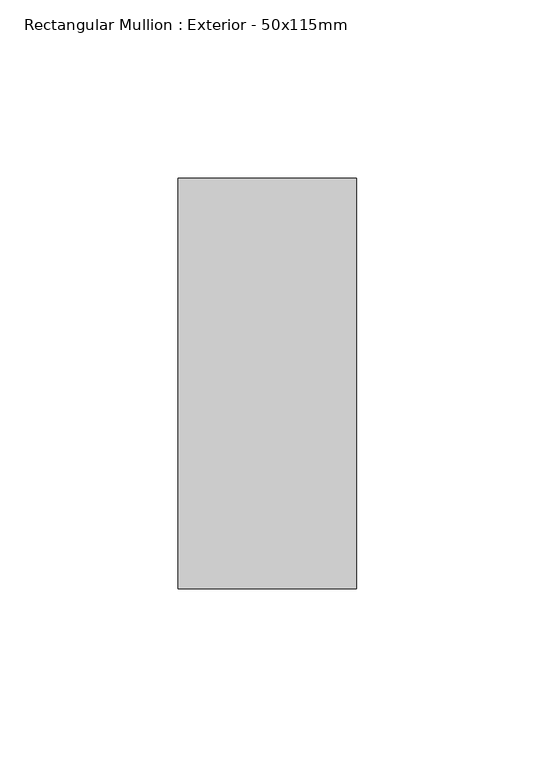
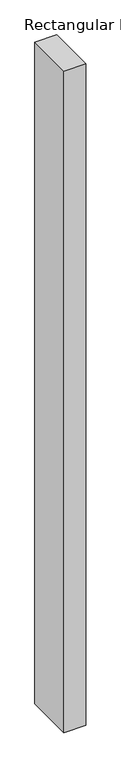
"""IFC4 building model written with IfcOpenShell, lengths in millimetres: member geometry, Rectangular Mullion : Exterior - 50x115mm."""

import ifcopenshell
import ifcopenshell.guid

model = None  # the IFC model being written
_history = None  # IfcOwnerHistory: only IFC2X3 demands one
_inside = {}  # id of a spatial element -> (the spatial element, [elements in it])
_under = {}  # id of a project, library or spatial element -> (it, [spatial elements below it])
_declared = {}  # id of a project -> (the project, [libraries it declares])
_typed = {}  # id of a type object -> (the type object, [elements of that type])
_made_of = {}  # id of a material, layer set ... -> (it, [elements and type objects made of it])


def new_model(schema):
    """Start an empty IFC model of exactly this schema.

    Asked for "IFC4X3", IfcOpenShell would pick the latest addendum, in which some entities
    have other attributes; the version numbers below select the first issue.
    IFC2X3 requires an IfcOwnerHistory on every rooted entity: one is made here for all.
    """
    global model, _history
    if schema == "IFC4X3":
        model = ifcopenshell.file(schema_version=(4, 3, 0, 0))
    else:
        model = ifcopenshell.file(schema=schema)
    _inside.clear()
    _under.clear()
    _declared.clear()
    _typed.clear()
    _made_of.clear()
    _history = None
    if model.schema == "IFC2X3":
        org = make("IfcOrganization", Name="unknown")
        user = make(
            "IfcPersonAndOrganization",
            ThePerson=make("IfcPerson", FamilyName="unknown"),
            TheOrganization=org,
        )
        app = make(
            "IfcApplication",
            ApplicationDeveloper=org,
            Version="unknown",
            ApplicationFullName="unknown",
            ApplicationIdentifier="unknown",
        )
        _history = make(
            "IfcOwnerHistory",
            OwningUser=user,
            OwningApplication=app,
            ChangeAction="ADDED",
            CreationDate=0,
        )
    return model


def make(cls, **values):
    """One entity of the class cls with the attributes given. An attribute that is None is left unset."""
    return model.create_entity(
        cls, **{name: value for name, value in values.items() if value is not None}
    )


def rooted(cls, **values):
    """An entity with a GlobalId (a new one), such as an element, a storey or a relation."""
    return make(cls, GlobalId=ifcopenshell.guid.new(), OwnerHistory=_history, **values)


def si_unit(unit_type, name, prefix=None):
    """IfcSIUnit, for example si_unit("LENGTHUNIT", "METRE", prefix="MILLI")."""
    return make("IfcSIUnit", UnitType=unit_type, Prefix=prefix, Name=name)


def assignment(units):
    """IfcUnitAssignment: the units of a project."""
    return None if units is None else make("IfcUnitAssignment", Units=units)


def point(xyz):
    """IfcCartesianPoint."""
    return None if xyz is None else make("IfcCartesianPoint", Coordinates=xyz)


def direction(xyz):
    """IfcDirection."""
    return None if xyz is None else make("IfcDirection", DirectionRatios=xyz)


def frame(location, z_axis=None, x_axis=None):
    """IfcAxis2Placement3D, a coordinate frame: its origin and axes. An axis left out is left unset."""
    return make(
        "IfcAxis2Placement3D",
        Location=point(location),
        Axis=direction(z_axis),
        RefDirection=direction(x_axis),
    )


def origin():
    """The frame at (0, 0, 0) with its axes left unset."""
    return frame((0.0, 0.0, 0.0))


def place(relative_to, where):
    """IfcLocalPlacement: puts the frame where relative to a parent placement (None: the world)."""
    return make(
        "IfcLocalPlacement", PlacementRelTo=relative_to, RelativePlacement=where
    )


def context(
    kind, dimensions, precision=None, world=None, true_north=None, identifier=None
):
    """IfcGeometricRepresentationContext, for example the 3D "Model" context."""
    return make(
        "IfcGeometricRepresentationContext",
        ContextIdentifier=identifier,
        ContextType=kind,
        CoordinateSpaceDimension=dimensions,
        Precision=precision,
        WorldCoordinateSystem=world,
        TrueNorth=true_north,
    )


def project(units=None, contexts=None):
    """IfcProject with its units and contexts."""
    return rooted(
        "IfcProject",
        Name="project",
        RepresentationContexts=contexts,
        UnitsInContext=assignment(units),
    )


def spatial(cls, under=None, at=None, **own):
    """A site, building, storey or space (cls), placed at a placement, below another one or the project."""
    s = rooted(cls, ObjectPlacement=at, **own)
    if under is not None:
        _under.setdefault(under.id(), (under, []))[1].append(s)
    return s


def polyline(points):
    """IfcPolyline through the points."""
    return make("IfcPolyline", Points=[point(p) for p in points])


def outline(outer, holes=None, kind="AREA"):
    """IfcArbitraryClosedProfileDef: a profile drawn as a closed curve; with holes, ...WithVoids."""
    if holes is None:
        return make("IfcArbitraryClosedProfileDef", ProfileType=kind, OuterCurve=outer)
    return make(
        "IfcArbitraryProfileDefWithVoids",
        ProfileType=kind,
        OuterCurve=outer,
        InnerCurves=holes,
    )


def extrude(swept, where, along, depth):
    """IfcExtrudedAreaSolid: the profile swept, set in the frame where, extruded along a direction by depth."""
    return make(
        "IfcExtrudedAreaSolid",
        SweptArea=swept,
        Position=where,
        ExtrudedDirection=direction(along),
        Depth=depth,
    )


def shape(context_of_items, identifier, shape_type, items):
    """IfcShapeRepresentation: the items that make up one representation, for example the "Body"."""
    return make(
        "IfcShapeRepresentation",
        ContextOfItems=context_of_items,
        RepresentationIdentifier=identifier,
        RepresentationType=shape_type,
        Items=items,
    )


def source(mapping_origin, context_of_items, identifier, shape_type, items):
    """IfcRepresentationMap: a shape defined once, which mapped items show again and again."""
    return make(
        "IfcRepresentationMap",
        MappingOrigin=mapping_origin,
        MappedRepresentation=shape(context_of_items, identifier, shape_type, items),
    )


def transform(
    local_origin,
    x_axis=None,
    y_axis=None,
    z_axis=None,
    scale=None,
    scale2=None,
    scale3=None,
    uniform=True,
):
    """IfcCartesianTransformationOperator3D, or its non-uniform kind. x_axis, y_axis, z_axis: its Axis1, 2, 3."""
    if uniform:
        return make(
            "IfcCartesianTransformationOperator3D",
            Axis1=direction(x_axis),
            Axis2=direction(y_axis),
            LocalOrigin=point(local_origin),
            Scale=scale,
            Axis3=direction(z_axis),
        )
    return make(
        "IfcCartesianTransformationOperator3DnonUniform",
        Axis1=direction(x_axis),
        Axis2=direction(y_axis),
        LocalOrigin=point(local_origin),
        Scale=scale,
        Axis3=direction(z_axis),
        Scale2=scale2,
        Scale3=scale3,
    )


def mapped(mapping_source, mapping_target):
    """IfcMappedItem: shows the shape of a source again, moved by a transform."""
    return make(
        "IfcMappedItem", MappingSource=mapping_source, MappingTarget=mapping_target
    )


def made_of(thing, what):
    """Note that an element or type object is made of a material, layer set ...; save() writes the relation."""
    if what is not None:
        _made_of.setdefault(what.id(), (what, []))[1].append(thing)
    return thing


def element(
    cls,
    number,
    at=None,
    inside=None,
    cuts=None,
    type_object=None,
    material=None,
    context=None,
    identifier="Body",
    shape_type=None,
    held_by="IfcProductDefinitionShape",
    body=None,
    shapes=None,
    **own,
):
    """One element of the class cls, such as IfcWall. Its Tag is "e" and its number.

    at: its placement. inside: the storey or other place that contains it. cuts: it is an
    opening in that element (IfcRelVoidsElement). A single representation is given by context,
    identifier, shape_type and body (its items); several are given by shapes. held_by: the class
    of the entity that holds the representations. save() writes the other relations.
    """
    e = rooted(cls, Tag="e%d" % number, ObjectPlacement=at, **own)
    if body is not None:
        shapes = [shape(context, identifier, shape_type, body)]
    if shapes is not None:
        e.Representation = make(held_by, Representations=shapes)
    if inside is not None:
        _inside.setdefault(inside.id(), (inside, []))[1].append(e)
    if cuts is not None:
        rooted(
            "IfcRelVoidsElement", RelatingBuildingElement=cuts, RelatedOpeningElement=e
        )
    if type_object is not None:
        _typed.setdefault(type_object.id(), (type_object, []))[1].append(e)
    return made_of(e, material)


def aggregate(whole, parts):
    """IfcRelAggregates: a whole, such as a stair, and the parts it consists of."""
    return rooted("IfcRelAggregates", RelatingObject=whole, RelatedObjects=parts)


def save(model, path):
    """Write the relations noted so far, then the file.

    IfcRelAggregates (storeys below a building ...), IfcRelContainedInSpatialStructure (elements
    in a storey), IfcRelDefinesByType, IfcRelAssociatesMaterial and IfcRelDeclares: one each for
    every whole, place, type object, material and project.
    """
    for whole, parts in _under.values():
        aggregate(whole, parts)
    for where, things in _inside.values():
        rooted(
            "IfcRelContainedInSpatialStructure",
            RelatedElements=things,
            RelatingStructure=where,
        )
    for kind, things in _typed.values():
        rooted("IfcRelDefinesByType", RelatedObjects=things, RelatingType=kind)
    for what, things in _made_of.values():
        rooted("IfcRelAssociatesMaterial", RelatedObjects=things, RelatingMaterial=what)
    for by, libraries in _declared.values():
        rooted("IfcRelDeclares", RelatingContext=by, RelatedDefinitions=libraries)
    model.write(path)


def rectangular_mullion_exterior_50x115mm_16fa2587(model_context):
    return source(origin(), model_context, "Body", "SweptSolid", [
        extrude(outline(polyline([(0.0, 107.5), (0.0, -7.5), (-50.0, -7.5), (-50.0, 107.5), (0.0, 107.5)])), frame((0.0, 0.0, -1600.0), z_axis=(0.0, 0.0, 1.0), x_axis=(1.0, 0.0, 0.0)), (0.0, 0.0, 1.0), 1600.0),
    ])


if __name__ == "__main__":
    model = new_model("IFC4")
    model_context = context("Model", 3, world=origin())
    ifc_project = project(units=[si_unit("LENGTHUNIT", "METRE", prefix="MILLI")], contexts=[model_context])
    site = spatial("IfcSite", under=ifc_project)
    building = spatial("IfcBuilding", under=site)
    placement = place(None, origin())
    rectangular_mullion_exterior_50x115mm_shape = rectangular_mullion_exterior_50x115mm_16fa2587(model_context)
    element("IfcMember", 1, ObjectType="Rectangular Mullion : Exterior - 50x115mm", at=placement, inside=building, context=model_context, shape_type="MappedRepresentation", body=[
        mapped(rectangular_mullion_exterior_50x115mm_shape, transform((0.0, 0.0, 0.0), x_axis=(1.0, 0.0, 0.0), y_axis=(0.0, 1.0, 0.0), z_axis=(0.0, 0.0, 1.0))),
    ])
    save(model, "model.ifc")
